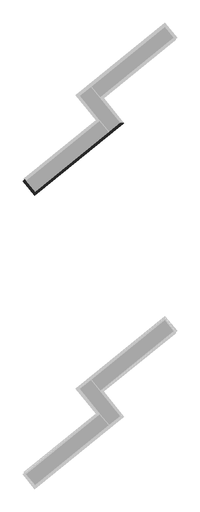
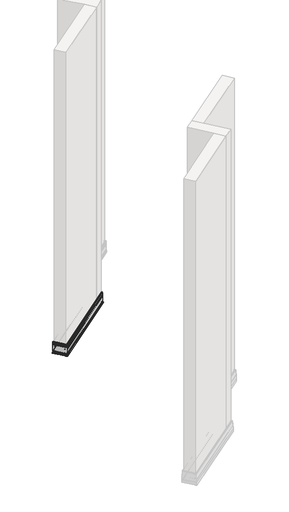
# One storey, part 17 of 21: 1 proxy.
"""IFC4 building model written with IfcOpenShell, lengths in millimetres."""

from ifc_helpers import new_model, si_unit, frame, origin, place, context, project, spatial, polyline, circle_curve, ellipse_curve, element, save
from ifc_brep_helpers import plane_surface, cylinder_surface, revolved_surface, advanced_brep

model = new_model("IFC4")

# Units and contexts
model_context = context("Model", 3, world=origin())
ifc_project = project(units=[si_unit("LENGTHUNIT", "METRE", prefix="MILLI")], contexts=[model_context])

# Site, building, storey
site = spatial("IfcSite", under=ifc_project)
building = spatial("IfcBuilding", under=site)
storey = spatial("IfcBuildingStorey", under=building, Name="Izofleks 2D View", Elevation=0.0)

# Proxy
placement = place(None, origin())
element("IfcBuildingElementProxy", 1, Name="Wall Sweeps", at=placement, inside=storey, context=model_context, shape_type="AdvancedBrep", body=[
    advanced_brep(
    [(10237.4522713, -3345.7787476, 24.6576156), (10237.4522713, -3345.7787476, 28.7655485), (10234.0081119, -3345.4167518, 28.7655485), (10233.7384472, -3345.3884089, 27.7479135), (10235.1018647, -3345.5317099, 27.7479135), (10235.787117, -3345.6037328, 27.1399945), (10233.0387933, -3345.3148723, 18.3), (10235.3488299, -3345.557667, 18.3), (10235.3488299, -3345.557667, 16.99999), (10228.316906, -3344.818582, 16.99999), (10228.316906, -3344.818582, 0.0), (10226.4885138, -3344.6264102, 0.0), (10226.4885138, -3344.6264102, 54.99999), (10228.316906, -3344.818582, 53.99999), (10228.316906, -3344.818582, 47.8868905), (10232.5927689, -3345.2679933, 47.8868905), (10231.6371214, -3345.1675507, 48.3626585), (10230.421833, -3345.0398187, 48.3626585), (10229.7258942, -3344.9666726, 48.9497419), (10232.4134293, -3345.2491439, 59.2434073), (10233.4174589, -3345.3546717, 59.6555585), (10237.4382256, -3345.7772713, 59.6555585), (10237.3663333, -3345.7697151, 78.3223694), (10237.3663333, -3345.7697151, 87.2257869), (10237.4685861, -3345.7804623, 93.4495757), (10236.4948445, -3345.678118, 98.368044), (10235.9160855, -3345.6172879, 99.5828469), (10234.5285034, -3345.4714472, 101.7076691), (10232.8190999, -3345.2917816, 103.1069743), (10231.3185263, -3345.134065, 103.51129), (10231.3185263, -3345.134065, 101.4584585), (10226.3958941, -3344.6166755, 101.4584585), (10226.3958941, -3344.6166755, 102.9584585), (10229.2088268, -3344.9123266, 102.9584585), (10229.2088268, -3344.9123266, 104.9584585), (10231.6701436, -3345.1710215, 104.9964584), (10234.1314621, -3345.4297165, 104.2814568), (10236.3545341, -3345.6633707, 102.4589271), (10237.8870208, -3345.8244416, 100.1178709), (10238.7579789, -3345.915983, 98.199675), (10239.1601241, -3345.9582501, 96.8753527), (10239.5730975, -3346.0016554, 93.606275), (10239.4760312, -3345.9914533, 87.1886584), (10239.560419, -3346.0003228, 78.3276584), (10239.560419, -3346.0003228, 24.6000924), (10240.0034307, -3346.0468852, 19.4344099), (10243.3364636, -3346.3972011, 12.1684838), (10248.6774701, -3346.9585635, 4.8872371), (10247.0771626, -3346.7903644, 2.9584585), (10244.6799567, -3346.5384079, 2.9584585), (10244.6799567, -3346.5384079, 0.4656585), (10242.8374858, -3346.3447564, 0.4656585), (10242.8374858, -3346.3447564, 4.2584585), (10244.3625239, -3346.5050444, 4.2584585), (10245.5965682, -3346.6347477, 5.7382041), (10241.4320609, -3346.1970403, 11.523042), (10237.9252206, -3345.8284565, 19.1754831), (9568.8979128, -3736.7182193, 24.6576156), (9568.6365837, -3736.9298395, 19.1754831), (9566.6988716, -3738.4989678, 11.523042), (9564.3977643, -3740.3623677, 5.7382041), (9565.0796381, -3739.8101972, 4.2584585), (9565.9223011, -3739.1278221, 4.2584585), (9565.9223011, -3739.1278221, 0.4656585), (9564.9042399, -3739.9522318, 0.4656585), (9564.9042399, -3739.9522318, 2.9584585), (9563.5796587, -3741.0248566, 2.9584585), (9562.6954054, -3741.7409108, 4.8872371), (9565.6465899, -3739.3510887, 12.1684838), (9567.4882643, -3737.8597302, 19.4344099), (9567.7330513, -3737.6615056, 24.6000924), (9567.7330513, -3737.6615056, 78.3276584), (9567.77968, -3737.6237464, 87.1886584), (9567.7260458, -3737.6671785, 93.606275), (9567.9542351, -3737.4823945, 96.8753527), (9568.1764413, -3737.3024554, 98.199675), (9568.657691, -3736.9127471, 100.1178709), (9569.5044698, -3736.2270391, 102.4589271), (9570.732833, -3735.2323303, 104.2814568), (9572.0928397, -3734.1310185, 104.9964584), (9573.4528455, -3733.0297075, 104.9584585), (9573.4528455, -3733.0297075, 102.9584585), (9575.0071374, -3731.7710668, 102.9584585), (9575.0071374, -3731.7710668, 101.4584585), (9572.2871266, -3733.9736881, 101.4584585), (9572.2871266, -3733.9736881, 103.51129), (9571.4579814, -3734.6451166, 103.1069743), (9570.513447, -3735.4099856, 101.7076691), (9569.7467355, -3736.0308562, 99.5828469), (9569.426941, -3736.2898207, 98.368044), (9568.888898, -3736.7255193, 93.4495757), (9568.945398, -3736.6797666, 87.2257869), (9568.945398, -3736.6797666, 78.3223694), (9568.9056738, -3736.7119346, 59.6555585), (9571.1273569, -3734.9128511, 59.6555585), (9571.6821356, -3734.4636002, 59.2434073), (9573.1671388, -3733.2610683, 48.9497419), (9572.7825964, -3733.5724646, 48.3626585), (9572.1110862, -3734.1162428, 48.3626585), (9571.5830412, -3734.5438453, 47.8868905), (9573.9456782, -3732.6306195, 47.8868905), (9573.9456782, -3732.6306195, 53.99999), (9574.9559602, -3731.8125092, 54.99999), (9574.9559602, -3731.8125092, 0.0), (9573.9456782, -3732.6306195, 0.0), (9573.9456782, -3732.6306195, 16.99999), (9570.0601738, -3735.7770389, 16.99999), (9570.0601738, -3735.7770389, 18.3), (9571.3365894, -3734.7434179, 18.3), (9569.8179973, -3735.9731496, 27.1399945), (9570.1966349, -3735.6665349, 27.7479135), (9570.9499942, -3735.0564766, 27.7479135), (9570.8009903, -3735.1771375, 28.7655485), (9568.8979128, -3736.7182193, 28.7655485), (9642.4767053, -3827.5804611, 24.6576156), (9642.4767053, -3827.5804611, 28.7655485), (9642.8387011, -3824.1363017, 28.7655485), (9642.867044, -3823.8666369, 27.7479135), (9642.723743, -3825.2300544, 27.7479135), (9642.6517201, -3825.9153068, 27.1399945), (9642.9405806, -3823.166983, 18.3), (9642.6977859, -3825.4770196, 18.3), (9642.6977859, -3825.4770196, 16.99999), (9643.4368709, -3818.4450957, 16.99999), (9643.4368709, -3818.4450957, 0.0), (9643.6290427, -3816.6167035, 0.0), (10148.7739176, -3407.5584493, 0.0), (9643.6290427, -3816.6167035, 54.99999), (9643.4368709, -3818.4450957, 53.99999), (9643.4368709, -3818.4450957, 47.8868905), (9642.9874596, -3822.7209586, 47.8868905), (9643.0879022, -3821.7653111, 48.3626585), (9643.2156342, -3820.5500227, 48.3626585), (9643.2887803, -3819.854084, 48.9497419), (9643.006309, -3822.541619, 59.2434073), (9642.9007812, -3823.5456486, 59.6555585), (9642.4781816, -3827.5664153, 59.6555585), (9642.4857378, -3827.4945231, 78.3223694), (9642.4857378, -3827.4945231, 87.2257869), (9642.4749906, -3827.5967758, 93.4495757), (9642.577335, -3826.6230342, 98.368044), (9642.638165, -3826.0442752, 99.5828469), (9642.7840057, -3824.6566931, 101.7076691), (9642.9636713, -3822.9472897, 103.1069743), (9643.1213879, -3821.4467161, 103.51129), (9643.1213879, -3821.4467161, 101.4584585), (9643.6387774, -3816.5240838, 101.4584585), (9643.6387774, -3816.5240838, 102.9584585), (9643.3431263, -3819.3370165, 102.9584585), (9643.3431263, -3819.3370165, 104.9584585), (9643.0844315, -3821.7983333, 104.9964584), (9642.8257365, -3824.2596518, 104.2814568), (9642.5920822, -3826.4827238, 102.4589271), (9642.4310113, -3828.0152105, 100.1178709), (9642.3394699, -3828.8861686, 98.199675), (9642.2972028, -3829.2883138, 96.8753527), (9642.2537975, -3829.7012873, 93.606275), (9642.2639996, -3829.6042209, 87.1886584), (9642.2551301, -3829.6886087, 78.3276584), (9642.2551301, -3829.6886087, 24.6000924), (9642.2085677, -3830.1316204, 19.4344099), (9641.8582518, -3833.4646534, 12.1684838), (9641.2968894, -3838.8056598, 4.8872371), (9641.4650885, -3837.2053524, 2.9584585), (9641.717045, -3834.8081464, 2.9584585), (9641.717045, -3834.8081464, 0.4656585), (9641.9106965, -3832.9656755, 0.4656585), (9641.9106965, -3832.9656755, 4.2584585), (9641.7504085, -3834.4907136, 4.2584585), (9641.6207052, -3835.7247579, 5.7382041), (9642.0584126, -3831.5602507, 11.523042), (9642.4269964, -3828.0534103, 19.1754831), (9580.6970036, -3738.9021074, 0.0)],
    [
        (0, 1),
        (1, 2),
        (2, 3),
        (3, 4),
        (4, 5, ellipse_curve(frame((10235.1004582, -3345.5315621, 27.2479135), z_axis=(0.10452846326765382, 0.9945218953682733, 0.0), x_axis=(0.9945218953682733, -0.10452846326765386, 0.0)), 0.7071082, 0.500001)),
        (5, 6),
        (6, 7),
        (7, 8, ellipse_curve(frame((10235.1785737, -3345.5397723, 17.649995), z_axis=(0.10452846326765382, 0.9945218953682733, 0.0), x_axis=(0.9945218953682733, -0.10452846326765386, 0.0)), 0.935051, 0.6611809)),
        (8, 9),
        (9, 10),
        (10, 11),
        (11, 12),
        (12, 13, ellipse_curve(frame((10226.8389918, -3344.663247, 53.9789482), z_axis=(0.10452846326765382, 0.9945218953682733, 0.0), x_axis=(0.9945218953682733, -0.10452846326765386, 0.0)), 1.4863528, 1.0510102)),
        (13, 14),
        (14, 15),
        (15, 16),
        (16, 17),
        (17, 18, ellipse_curve(frame((10230.4183879, -3345.0394566, 48.8626585), z_axis=(0.10452846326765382, 0.9945218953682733, 0.0), x_axis=(0.9945218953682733, -0.10452846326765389, 0.0)), 0.7071153, 0.500006)),
        (18, 19),
        (19, 20, ellipse_curve(frame((10233.1631319, -3345.3279409, 59.1444576), z_axis=(0.10452846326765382, 0.9945218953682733, 0.0), x_axis=(0.9945218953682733, -0.10452846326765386, 0.0)), 0.7667105, 0.5421462)),
        (20, 21),
        (21, 22),
        (22, 23),
        (23, 24, ellipse_curve(frame((10122.3145711, -3333.6772876, 91.2936585), z_axis=(-0.10452846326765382, -0.9945218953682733, 0.0), x_axis=(-0.9945218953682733, 0.10452846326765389, 0.0)), 115.8284506, 81.9030829)),
        (24, 25, ellipse_curve(frame((10213.8673896, -3343.2998766, 93.5954863), z_axis=(-0.10452846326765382, -0.9945218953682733, 0.0), x_axis=(-0.9945218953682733, 0.10452846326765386, 0.0)), 23.7320956, 16.7811257)),
        (25, 26, ellipse_curve(frame((10196.1180146, -3341.4343421, 89.3206815), z_axis=(-0.10452846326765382, -0.9945218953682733, 0.0), x_axis=(-0.9945218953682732, 0.10452846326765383, 0.0)), 42.5676821, 30.0998967)),
        (26, 27, ellipse_curve(frame((10213.8673896, -3343.2998766, 93.5954863), z_axis=(-0.10452846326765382, -0.9945218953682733, 0.0), x_axis=(-0.9945218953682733, 0.10452846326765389, 0.0)), 23.7320956, 16.7811257)),
        (27, 28, ellipse_curve(frame((10228.5738163, -3344.8455843, 99.2578162), z_axis=(-0.10452846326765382, -0.9945218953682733, 0.0), x_axis=(-0.9945218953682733, 0.10452846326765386, 0.0)), 6.9176268, 4.8915008)),
        (28, 29, ellipse_curve(frame((10231.2009667, -3345.121709, 101.680883), z_axis=(-0.10452846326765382, -0.9945218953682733, 0.0), x_axis=(-0.9945218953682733, 0.10452846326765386, 0.0)), 2.5912839, 1.8323144)),
        (29, 30),
        (30, 31),
        (31, 32),
        (32, 33),
        (33, 34),
        (34, 35, ellipse_curve(frame((10230.7077412, -3345.0698689, 96.1938046), z_axis=(0.10452846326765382, 0.9945218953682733, 0.0), x_axis=(0.9945218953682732, -0.10452846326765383, 0.0)), 12.4863877, 8.8292094)),
        (35, 36, ellipse_curve(frame((10231.2009668, -3345.121709, 101.680883), z_axis=(0.10452846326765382, 0.9945218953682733, 0.0), x_axis=(0.9945218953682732, -0.10452846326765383, 0.0)), 4.7126043, 3.3323144)),
        (36, 37, ellipse_curve(frame((10228.5738163, -3344.8455843, 99.2578162), z_axis=(0.10452846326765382, 0.9945218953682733, 0.0), x_axis=(0.9945218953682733, -0.10452846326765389, 0.0)), 9.0389471, 6.3915008)),
        (37, 38, ellipse_curve(frame((10213.9387864, -3343.3073807, 93.6169585), z_axis=(0.10452846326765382, 0.9945218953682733, 0.0), x_axis=(0.9945218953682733, -0.10452846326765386, 0.0)), 25.7755165, 18.2260425)),
        (38, 39, ellipse_curve(frame((10215.1485656, -3343.4345336, 93.8395846), z_axis=(0.10452846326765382, 0.9945218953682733, 0.0), x_axis=(0.9945218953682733, -0.10452846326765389, 0.0)), 24.5271842, 17.3433382)),
        (39, 40),
        (40, 41, ellipse_curve(frame((10213.9387864, -3343.3073807, 93.6169585), z_axis=(0.10452846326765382, 0.9945218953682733, 0.0), x_axis=(0.9945218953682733, -0.10452846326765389, 0.0)), 25.7755165, 18.2260425)),
        (41, 42, ellipse_curve(frame((10122.3145711, -3333.6772876, 91.2936584), z_axis=(0.10452846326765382, 0.9945218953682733, 0.0), x_axis=(0.9945218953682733, -0.10452846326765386, 0.0)), 117.9497709, 83.4030829)),
        (42, 43),
        (43, 44),
        (44, 45, ellipse_curve(frame((10276.2597522, -3349.8575782, 23.5987093), z_axis=(-0.10452846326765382, -0.9945218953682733, 0.0), x_axis=(-0.9945218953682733, 0.10452846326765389, 0.0)), 36.9286476, 26.1124971)),
        (45, 46, ellipse_curve(frame((10281.2043647, -3350.3772779, 24.9692502), z_axis=(-0.10452846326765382, -0.9945218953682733, 0.0), x_axis=(-0.9945218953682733, 0.10452846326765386, 0.0)), 42.1608608, 29.8122306)),
        (46, 47, ellipse_curve(frame((10392.5905596, -3362.0844387, 62.8834263), z_axis=(-0.10452846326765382, -0.9945218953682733, 0.0), x_axis=(-0.9945218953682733, 0.10452846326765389, 0.0)), 166.3336568, 117.6156566)),
        (47, 48, ellipse_curve(frame((10247.0771626, -3346.7903644, 4.2584585), z_axis=(0.10452846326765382, 0.9945218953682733, 0.0), x_axis=(0.9945218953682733, -0.10452846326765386, 0.0)), 1.8384776, 1.3)),
        (48, 49),
        (49, 50),
        (50, 51),
        (51, 52),
        (52, 53),
        (53, 54, ellipse_curve(frame((10244.3625239, -3346.5050444, 5.2584585), z_axis=(-0.10452846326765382, -0.9945218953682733, 0.0), x_axis=(-0.9945218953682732, 0.10452846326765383, 0.0)), 1.4142136, 1.0)),
        (54, 55, ellipse_curve(frame((10392.5905596, -3362.0844387, 62.8834263), z_axis=(0.10452846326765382, 0.9945218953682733, 0.0), x_axis=(0.9945218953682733, -0.10452846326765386, 0.0)), 168.4549771, 119.1156566)),
        (55, 56, ellipse_curve(frame((10281.2043647, -3350.3772779, 24.9692502), z_axis=(0.10452846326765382, 0.9945218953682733, 0.0), x_axis=(0.9945218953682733, -0.10452846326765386, 0.0)), 44.2821811, 31.3122306)),
        (56, 0, ellipse_curve(frame((10276.2597522, -3349.8575782, 23.5987093), z_axis=(0.10452846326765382, 0.9945218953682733, 0.0), x_axis=(0.9945218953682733, -0.10452846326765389, 0.0)), 39.0499679, 27.6124971)),
        (57, 58, circle_curve(frame((9547.454757, -3754.0825445, 23.5987093), z_axis=(-0.629320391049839, 0.7771459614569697, 0.0), x_axis=(0.7765743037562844, 0.628857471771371, 0.0383488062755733)), 27.6124971)),
        (58, 59, circle_curve(frame((9544.7226009, -3756.2950009, 24.9692502), z_axis=(-0.629320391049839, 0.7771459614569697, 0.0), x_axis=(0.7636350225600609, 0.6183794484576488, -0.18565669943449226)), 31.3122306)),
        (59, 60, circle_curve(frame((9483.1759231, -3806.1345179, 62.8834263), z_axis=(-0.6293203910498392, 0.7771459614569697, 0.0), x_axis=(0.7011878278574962, 0.5678107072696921, -0.4311921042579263)), 119.1156566)),
        (60, 61, circle_curve(frame((9565.0796381, -3739.8101972, 5.2584585), z_axis=(0.6293203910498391, -0.7771459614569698, 0.0), x_axis=(-0.6818737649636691, -0.5521704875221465, 0.47974568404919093)), 1.0)),
        (61, 62),
        (62, 63),
        (63, 64),
        (64, 65),
        (65, 66),
        (66, 67, circle_curve(frame((9563.5796587, -3741.0248566, 4.2584585), z_axis=(-0.629320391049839, 0.7771459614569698, 0.0), x_axis=(1.8485803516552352e-11, 1.496950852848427e-11, -1.0)), 1.3)),
        (67, 68, circle_curve(frame((9483.1759231, -3806.1345179, 62.8834263), z_axis=(0.6293203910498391, -0.7771459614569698, 0.0), x_axis=(0.6760960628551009, 0.5474917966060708, -0.4930992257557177)), 117.6156566)),
        (68, 69, circle_curve(frame((9544.7226009, -3756.2950009, 24.9692502), z_axis=(0.6293203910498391, -0.7771459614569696, 0.0), x_axis=(0.7018592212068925, 0.5683543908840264, -0.4293796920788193)), 29.8122306)),
        (69, 70, circle_curve(frame((9547.454757, -3754.0825445, 23.5987093), z_axis=(0.629320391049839, -0.7771459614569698, 0.0), x_axis=(0.7671999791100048, 0.6212662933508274, -0.15947534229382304)), 26.1124971)),
        (70, 71),
        (71, 72),
        (72, 73, circle_curve(frame((9632.5174929, -3685.2000992, 91.2936584), z_axis=(-0.6293203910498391, 0.7771459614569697, 0.0), x_axis=(-0.7762040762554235, -0.6285576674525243, -0.04921880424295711)), 83.4030829)),
        (73, 74, circle_curve(frame((9581.8903386, -3726.1971603, 93.6169585), z_axis=(-0.6293203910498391, 0.7771459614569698, 0.0), x_axis=(-0.777145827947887, -0.6293202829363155, -0.0005861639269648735)), 18.2260425)),
        (74, 75),
        (75, 76, circle_curve(frame((9581.2218726, -3726.7384734, 93.8395846), z_axis=(-0.6293203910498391, 0.7771459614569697, 0.0), x_axis=(-0.7635664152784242, -0.6183238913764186, 0.18612333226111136)), 17.3433382)),
        (76, 77, circle_curve(frame((9581.8903386, -3726.1971603, 93.6169585), z_axis=(-0.6293203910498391, 0.7771459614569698, 0.0), x_axis=(-0.7260296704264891, -0.5879272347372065, 0.35668261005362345)), 18.2260425)),
        (77, 78, circle_curve(frame((9573.8037219, -3732.7455734, 99.2578162), z_axis=(-0.629320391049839, 0.7771459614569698, 0.0), x_axis=(-0.6726514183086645, -0.5447023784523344, 0.5008386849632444)), 6.3915008)),
        (78, 79, circle_curve(frame((9572.3520844, -3733.9210863, 101.680883), z_axis=(-0.6293203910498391, 0.7771459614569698, 0.0), x_axis=(-0.4859239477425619, -0.3934934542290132, 0.7804106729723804)), 3.3323144)),
        (79, 80, circle_curve(frame((9572.6246172, -3733.7003936, 96.1938046), z_axis=(-0.629320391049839, 0.7771459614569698, 0.0), x_axis=(-0.06022934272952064, -0.048772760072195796, 0.9969922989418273)), 8.8292094)),
        (80, 81),
        (81, 82),
        (82, 83),
        (83, 84),
        (84, 85),
        (85, 86, circle_curve(frame((9572.3520844, -3733.9210863, 101.680883), z_axis=(0.6293203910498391, -0.7771459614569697, 0.0), x_axis=(-0.03545124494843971, -0.028707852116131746, 0.9989589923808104)), 1.8323144)),
        (86, 87, circle_curve(frame((9573.8037219, -3732.7455734, 99.2578162), z_axis=(0.6293203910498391, -0.7771459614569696, 0.0), x_axis=(-0.48046445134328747, -0.38907244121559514, 0.7859876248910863)), 4.8915008)),
        (87, 88, circle_curve(frame((9581.9297891, -3726.1652139, 93.5954863), z_axis=(0.6293203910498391, -0.7771459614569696, 0.0), x_axis=(-0.6803084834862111, -0.5509029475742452, 0.4834111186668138)), 16.7811257)),
        (88, 89, circle_curve(frame((9591.7372439, -3718.2232937, 89.3206815), z_axis=(0.629320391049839, -0.7771459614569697, 0.0), x_axis=(-0.7305841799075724, -0.591615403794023, 0.340936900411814)), 30.0998967)),
        (89, 90, circle_curve(frame((9581.9297891, -3726.1652139, 93.5954863), z_axis=(0.6293203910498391, -0.7771459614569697, 0.0), x_axis=(-0.7450541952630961, -0.6033329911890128, 0.28440033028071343)), 16.7811257)),
        (90, 91, circle_curve(frame((9632.5174929, -3685.2000992, 91.2936585), z_axis=(0.629320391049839, -0.7771459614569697, 0.0), x_axis=(-0.7768766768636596, -0.629102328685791, 0.02632278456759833)), 81.9030829)),
        (91, 92),
        (92, 93),
        (93, 94),
        (94, 95, circle_curve(frame((9571.2678859, -3734.799053, 59.1444576), z_axis=(-0.629320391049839, 0.7771459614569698, 0.0), x_axis=(-0.7771459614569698, -0.629320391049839, 0.0)), 0.5421462)),
        (95, 96),
        (96, 97, circle_curve(frame((9572.7845, -3733.5709231, 48.8626585), z_axis=(-0.6293203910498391, 0.7771459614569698, 0.0), x_axis=(0.7652684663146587, 0.6197021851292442, 0.17416479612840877)), 0.500006)),
        (97, 98),
        (98, 99),
        (99, 100),
        (100, 101),
        (101, 102, circle_curve(frame((9574.7623028, -3731.9693299, 53.9789482), z_axis=(-0.6293203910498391, 0.7771459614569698, 0.0), x_axis=(-0.776990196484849, -0.6291942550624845, 0.02002058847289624)), 1.0510102)),
        (102, 103),
        (103, 104),
        (104, 105),
        (105, 106),
        (106, 107, circle_curve(frame((9570.1542492, -3735.7008582, 17.649995), z_axis=(-0.629320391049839, 0.7771459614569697, 0.0), x_axis=(-0.14228387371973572, -0.11521920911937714, -0.9830970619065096)), 0.6611809)),
        (107, 108),
        (108, 109),
        (109, 110, circle_curve(frame((9570.1974121, -3735.6659056, 27.2479135), z_axis=(-0.6293203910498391, 0.7771459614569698, 0.0), x_axis=(-0.758977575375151, -0.6146079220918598, -0.21496544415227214)), 0.500001)),
        (110, 111),
        (111, 112),
        (112, 113),
        (113, 57),
        (0, 114),
        (114, 115),
        (115, 1),
        (115, 116),
        (116, 2),
        (116, 117),
        (117, 3),
        (117, 118),
        (118, 4),
        (118, 119, ellipse_curve(frame((9642.7238909, -3825.228648, 27.2479135), z_axis=(0.9945218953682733, -0.10452846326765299, 0.0), x_axis=(0.10452846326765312, 0.9945218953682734, 0.0)), 0.7071082, 0.500001)),
        (119, 5),
        (119, 120),
        (120, 6),
        (120, 121),
        (121, 7),
        (121, 122, ellipse_curve(frame((9642.7156806, -3825.3067635, 17.649995), z_axis=(0.9945218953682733, -0.10452846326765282, 0.0), x_axis=(0.10452846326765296, 0.9945218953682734, 0.0)), 0.935051, 0.6611809)),
        (122, 8),
        (122, 123),
        (123, 9),
        (123, 124),
        (124, 10),
        (124, 125),
        (125, 126),
        (126, 11),
        (125, 127),
        (127, 12),
        (127, 128, ellipse_curve(frame((9643.592206, -3816.9671816, 53.9789482), z_axis=(0.9945218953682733, -0.1045284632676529, 0.0), x_axis=(0.10452846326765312, 0.9945218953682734, 0.0)), 1.4863528, 1.0510102)),
        (128, 13),
        (128, 129),
        (129, 14),
        (129, 130),
        (130, 15),
        (130, 131),
        (131, 16),
        (131, 132),
        (132, 17),
        (132, 133, ellipse_curve(frame((9643.2159963, -3820.5465776, 48.8626585), z_axis=(0.9945218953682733, -0.10452846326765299, 0.0), x_axis=(0.10452846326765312, 0.9945218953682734, 0.0)), 0.7071153, 0.500006)),
        (133, 18),
        (133, 134),
        (134, 19),
        (134, 135, ellipse_curve(frame((9642.9275121, -3823.2913216, 59.1444576), z_axis=(0.9945218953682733, -0.10452846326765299, 0.0), x_axis=(0.10452846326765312, 0.9945218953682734, 0.0)), 0.7667105, 0.5421462)),
        (135, 20),
        (135, 136),
        (136, 21),
        (136, 137),
        (137, 22),
        (137, 138),
        (138, 23),
        (138, 139, ellipse_curve(frame((9654.5781653, -3712.4427608, 91.2936585), z_axis=(-0.9945218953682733, 0.1045284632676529, 0.0), x_axis=(-0.10452846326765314, -0.9945218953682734, 0.0)), 115.8284506, 81.9030829)),
        (139, 24),
        (139, 140, ellipse_curve(frame((9644.9555763, -3803.9955793, 93.5954863), z_axis=(-0.9945218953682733, 0.1045284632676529, 0.0), x_axis=(-0.10452846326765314, -0.9945218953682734, 0.0)), 23.7320956, 16.7811257)),
        (140, 25),
        (140, 141, ellipse_curve(frame((9646.8211108, -3786.2462043, 89.3206815), z_axis=(-0.9945218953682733, 0.1045284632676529, 0.0), x_axis=(-0.10452846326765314, -0.9945218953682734, 0.0)), 42.5676821, 30.0998967)),
        (141, 26),
        (141, 142, ellipse_curve(frame((9644.9555763, -3803.9955793, 93.5954863), z_axis=(-0.9945218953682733, 0.10452846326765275, 0.0), x_axis=(-0.10452846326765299, -0.9945218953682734, 0.0)), 23.7320956, 16.7811257)),
        (142, 27),
        (142, 143, ellipse_curve(frame((9643.4098686, -3818.702006, 99.2578162), z_axis=(-0.9945218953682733, 0.10452846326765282, 0.0), x_axis=(-0.10452846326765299, -0.9945218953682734, 0.0)), 6.9176268, 4.8915008)),
        (143, 28),
        (143, 144, ellipse_curve(frame((9643.1337439, -3821.3291564, 101.680883), z_axis=(-0.9945218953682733, 0.10452846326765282, 0.0), x_axis=(-0.10452846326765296, -0.9945218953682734, 0.0)), 2.5912839, 1.8323144)),
        (144, 29),
        (144, 145),
        (145, 30),
        (145, 146),
        (146, 31),
        (146, 147),
        (147, 32),
        (147, 148),
        (148, 33),
        (148, 149),
        (149, 34),
        (149, 150, ellipse_curve(frame((9643.185584, -3820.8359309, 96.1938046), z_axis=(0.9945218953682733, -0.10452846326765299, 0.0), x_axis=(0.10452846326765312, 0.9945218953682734, 0.0)), 12.4863877, 8.8292094)),
        (150, 35),
        (150, 151, ellipse_curve(frame((9643.1337439, -3821.3291565, 101.680883), z_axis=(0.9945218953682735, -0.10452846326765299, 0.0), x_axis=(0.10452846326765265, 0.9945218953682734, 0.0)), 4.7126043, 3.3323144)),
        (151, 36),
        (151, 152, ellipse_curve(frame((9643.4098686, -3818.702006, 99.2578162), z_axis=(0.9945218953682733, -0.10452846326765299, 0.0), x_axis=(0.10452846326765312, 0.9945218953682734, 0.0)), 9.0389471, 6.3915008)),
        (152, 37),
        (152, 153, ellipse_curve(frame((9644.9480722, -3804.0669762, 93.6169585), z_axis=(0.9945218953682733, -0.10452846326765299, 0.0), x_axis=(0.10452846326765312, 0.9945218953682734, 0.0)), 25.7755165, 18.2260425)),
        (153, 38),
        (153, 154, ellipse_curve(frame((9644.8209193, -3805.2767553, 93.8395846), z_axis=(0.9945218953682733, -0.1045284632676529, 0.0), x_axis=(0.10452846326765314, 0.9945218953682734, 0.0)), 24.5271842, 17.3433382)),
        (154, 39),
        (154, 155),
        (155, 40),
        (155, 156, ellipse_curve(frame((9644.9480722, -3804.0669762, 93.6169585), z_axis=(0.9945218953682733, -0.10452846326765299, 0.0), x_axis=(0.10452846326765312, 0.9945218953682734, 0.0)), 25.7755165, 18.2260425)),
        (156, 41),
        (156, 157, ellipse_curve(frame((9654.5781653, -3712.4427608, 91.2936584), z_axis=(0.9945218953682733, -0.10452846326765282, 0.0), x_axis=(0.10452846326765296, 0.9945218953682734, 0.0)), 117.9497709, 83.4030829)),
        (157, 42),
        (157, 158),
        (158, 43),
        (158, 159),
        (159, 44),
        (159, 160, ellipse_curve(frame((9638.3978747, -3866.3879419, 23.5987093), z_axis=(-0.9945218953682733, 0.10452846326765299, 0.0), x_axis=(-0.10452846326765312, -0.9945218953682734, 0.0)), 36.9286476, 26.1124971)),
        (160, 45),
        (160, 161, ellipse_curve(frame((9637.878175, -3871.3325544, 24.9692502), z_axis=(-0.9945218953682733, 0.1045284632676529, 0.0), x_axis=(-0.10452846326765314, -0.9945218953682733, 0.0)), 42.1608608, 29.8122306)),
        (161, 46),
        (161, 162, ellipse_curve(frame((9626.1710142, -3982.7187493, 62.8834263), z_axis=(-0.9945218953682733, 0.10452846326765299, 0.0), x_axis=(-0.10452846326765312, -0.9945218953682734, 0.0)), 166.3336568, 117.6156566)),
        (162, 47),
        (162, 163, ellipse_curve(frame((9641.4650885, -3837.2053524, 4.2584585), z_axis=(0.9945218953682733, -0.10452846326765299, 0.0), x_axis=(0.10452846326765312, 0.9945218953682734, 0.0)), 1.8384776, 1.3)),
        (163, 48),
        (163, 164),
        (164, 49),
        (164, 165),
        (165, 50),
        (165, 166),
        (166, 51),
        (166, 167),
        (167, 52),
        (167, 168),
        (168, 53),
        (168, 169, ellipse_curve(frame((9641.7504085, -3834.4907136, 5.2584585), z_axis=(-0.9945218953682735, 0.10452846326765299, 0.0), x_axis=(-0.10452846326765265, -0.9945218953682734, 0.0)), 1.4142136, 1.0)),
        (169, 54),
        (169, 170, ellipse_curve(frame((9626.1710142, -3982.7187493, 62.8834263), z_axis=(0.9945218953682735, -0.10452846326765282, 0.0), x_axis=(0.10452846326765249, 0.9945218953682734, 0.0)), 168.4549771, 119.1156566)),
        (170, 55),
        (170, 171, ellipse_curve(frame((9637.878175, -3871.3325544, 24.9692502), z_axis=(0.9945218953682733, -0.1045284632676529, 0.0), x_axis=(0.10452846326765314, 0.9945218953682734, 0.0)), 44.2821811, 31.3122306)),
        (171, 56),
        (171, 114, ellipse_curve(frame((9638.3978747, -3866.3879419, 23.5987093), z_axis=(0.9945218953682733, -0.1045284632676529, 0.0), x_axis=(0.10452846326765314, 0.9945218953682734, 0.0)), 39.0499679, 27.6124971)),
        (114, 57),
        (113, 115),
        (112, 116),
        (111, 117),
        (110, 118),
        (109, 119),
        (108, 120),
        (107, 121),
        (106, 122),
        (105, 123),
        (104, 124),
        (103, 172),
        (172, 125),
        (102, 127),
        (101, 128),
        (100, 129),
        (99, 130),
        (98, 131),
        (97, 132),
        (96, 133),
        (95, 134),
        (94, 135),
        (93, 136),
        (92, 137),
        (91, 138),
        (90, 139),
        (89, 140),
        (88, 141),
        (87, 142),
        (86, 143),
        (85, 144),
        (84, 145),
        (83, 146),
        (82, 147),
        (81, 148),
        (80, 149),
        (79, 150),
        (78, 151),
        (77, 152),
        (76, 153),
        (75, 154),
        (74, 155),
        (73, 156),
        (72, 157),
        (71, 158),
        (70, 159),
        (69, 160),
        (68, 161),
        (67, 162),
        (66, 163),
        (65, 164),
        (64, 165),
        (63, 166),
        (62, 167),
        (61, 168),
        (60, 169),
        (59, 170),
        (58, 171),
    ],
    [
        plane_surface(frame((10226.4885138, -3344.6264102, 304.8), z_axis=(0.10452846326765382, 0.9945218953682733, 0.0), x_axis=(-0.9945218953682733, 0.10452846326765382, 0.0))),
        plane_surface(frame((10118.9581332, -3291.2882355, 0.0), z_axis=(-0.6293203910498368, 0.7771459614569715, 0.0), x_axis=(0.7771459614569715, 0.6293203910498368, 0.0))),
        plane_surface(frame((10237.4522713, -3345.7787476, 24.6576156), z_axis=(-0.6293203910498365, 0.7771459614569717, 0.0), x_axis=(-0.7771459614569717, -0.6293203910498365, 0.0))),
        plane_surface(frame((10237.4522713, -3345.7787476, 28.7655485), z_axis=(0.0, 0.0, -1.0), x_axis=(-0.7771459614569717, -0.6293203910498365, 0.0))),
        plane_surface(frame((10234.0081119, -3345.4167518, 28.7655485), z_axis=(0.6184393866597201, -0.763709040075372, -0.18515190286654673), x_axis=(-0.7771459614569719, -0.6293203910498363, 0.0))),
        plane_surface(frame((10233.7384472, -3345.3884089, 27.7479135), z_axis=(0.0, 0.0, 1.0), x_axis=(-0.7771459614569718, -0.6293203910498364, 0.0))),
        cylinder_surface(frame((10230.3419101, -3349.3849584, 27.2479135), z_axis=(0.7771459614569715, 0.6293203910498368, 0.0), x_axis=(0.6146079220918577, -0.7589775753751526, -0.21496544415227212)), 0.500001),
        plane_surface(frame((10235.787117, -3345.6037328, 27.1399945), z_axis=(0.6144868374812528, -0.758828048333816, -0.21583771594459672), x_axis=(-0.7771459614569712, -0.6293203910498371, 0.0))),
        plane_surface(frame((10233.0387933, -3345.3148723, 18.3), z_axis=(0.0, 0.0, 0.9999999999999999), x_axis=(-0.7771459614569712, -0.629320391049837, 0.0))),
        cylinder_surface(frame((10230.3768627, -3349.4281213, 17.649995), z_axis=(0.7771459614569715, 0.629320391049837, 0.0), x_axis=(0.11521920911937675, -0.14228387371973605, -0.9830970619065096)), 0.6611809),
        plane_surface(frame((10235.3488299, -3345.557667, 16.99999), z_axis=(0.0, 0.0, -1.0), x_axis=(-0.7771459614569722, -0.6293203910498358, 0.0))),
        plane_surface(frame((10228.316906, -3344.818582, 16.99999), z_axis=(0.6293203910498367, -0.7771459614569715, 0.0), x_axis=(-0.7771459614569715, -0.6293203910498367, 0.0))),
        plane_surface(frame((10228.316906, -3344.818582, 0.0), z_axis=(0.0, 0.0, -1.0), x_axis=(-0.7771459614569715, -0.6293203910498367, 0.0))),
        plane_surface(frame((10226.4885138, -3344.6264102, 0.0), z_axis=(-0.6293203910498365, 0.7771459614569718, 0.0), x_axis=(-0.7771459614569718, -0.6293203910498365, 0.0))),
        cylinder_surface(frame((10226.6453344, -3344.8200676, 53.9789482), z_axis=(0.7771459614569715, 0.629320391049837, 0.0), x_axis=(0.6291942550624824, -0.7769901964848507, 0.02002058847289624)), 1.0510102),
        plane_surface(frame((10228.316906, -3344.818582, 53.99999), z_axis=(0.6293203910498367, -0.7771459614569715, 0.0), x_axis=(-0.7771459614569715, -0.6293203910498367, 0.0))),
        plane_surface(frame((10228.316906, -3344.818582, 47.8868905), z_axis=(0.0, 0.0, 1.0), x_axis=(-0.7771459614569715, -0.6293203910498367, 0.0))),
        plane_surface(frame((10232.5927689, -3345.2679933, 47.8868905), z_axis=(-0.36096334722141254, 0.4457526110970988, -0.8191520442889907), x_axis=(-0.7771459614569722, -0.6293203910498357, 0.0))),
        plane_surface(frame((10231.6371214, -3345.1675507, 48.3626585), z_axis=(0.0, 0.0, -1.0000000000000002), x_axis=(-0.7771459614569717, -0.6293203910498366, 0.0))),
        cylinder_surface(frame((10228.2469276, -3346.7978705, 48.8626585), z_axis=(0.7771459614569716, 0.629320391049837, 0.0), x_axis=(-0.6197021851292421, 0.7652684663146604, 0.17416479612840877)), 0.500006),
        plane_surface(frame((10229.7258942, -3344.9666726, 48.9497419), z_axis=(-0.618749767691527, 0.764092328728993, 0.18251476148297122), x_axis=(-0.777145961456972, -0.6293203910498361, 0.0))),
        cylinder_surface(frame((10229.4750575, -3348.3144846, 59.1444576), z_axis=(0.7771459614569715, 0.6293203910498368, 0.0), x_axis=(0.6293203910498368, -0.7771459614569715, 0.0)), 0.5421462),
        plane_surface(frame((10233.4174589, -3345.3546717, 59.6555585), z_axis=(0.0, 0.0, 1.0), x_axis=(-0.7771459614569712, -0.6293203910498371, 0.0))),
        plane_surface(frame((10237.4382256, -3345.7772713, 59.6555585), z_axis=(-0.629318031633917, 0.7771430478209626, -0.002738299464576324), x_axis=(-0.7771459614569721, -0.6293203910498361, 0.0))),
        plane_surface(frame((10237.3663333, -3345.7697151, 78.3223694), z_axis=(-0.629320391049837, 0.7771459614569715, 0.0), x_axis=(-0.7771459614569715, -0.629320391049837, 0.0))),
        revolved_surface(polyline([(9642.452935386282, -3827.614635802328, 93.44957570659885), (10237.490641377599, -3345.762602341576, 93.44957570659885)]), (10179.8761037, -3287.0648776, 91.2936585), (-0.7771459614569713, -0.6293203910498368, 0.0)),
        revolved_surface(polyline([(9642.038798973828, -3827.0591320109, 98.36804399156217), (10237.03338045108, -3345.2420200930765, 98.36804399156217)]), (10220.8412185, -3337.6525813, 93.5954863), (-0.7771459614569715, -0.6293203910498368, 0.0)),
        revolved_surface(polyline([(9641.23666019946, -3827.179191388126, 99.58284698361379), (10237.317590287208, -3344.482371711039, 99.58284698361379)]), (10212.8992982, -3327.8451266, 89.3206815), (-0.7771459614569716, -0.6293203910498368, 0.0)),
        revolved_surface(polyline([(9641.158963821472, -3825.9726260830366, 101.70766904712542), (10236.153545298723, -3344.155514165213, 101.70766904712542)]), (10220.8412185, -3337.6525813, 93.5954863), (-0.7771459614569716, -0.6293203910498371, 0.0)),
        revolved_surface(polyline([(9641.511606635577, -3824.1305194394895, 103.10247529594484), (10234.278374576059, -3344.117455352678, 103.10247529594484)]), (10227.421578, -3345.7786485, 99.2578162), (-0.7771459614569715, -0.6293203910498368, 0.0)),
        revolved_surface(polyline([(9641.76237002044, -3822.5472271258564, 103.51128994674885), (10232.67754428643, -3344.033554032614, 103.51128994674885)]), (10228.5970909, -3347.2302861, 101.680883), (-0.7771459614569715, -0.629320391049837, 0.0)),
        plane_surface(frame((10231.3185263, -3345.134065, 103.51129), z_axis=(0.6293203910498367, -0.7771459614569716, 0.0), x_axis=(-0.7771459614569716, -0.6293203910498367, 0.0))),
        plane_surface(frame((10231.3185263, -3345.134065, 101.4584585), z_axis=(0.0, 0.0, -1.0), x_axis=(-0.7771459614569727, -0.6293203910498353, 0.0))),
        plane_surface(frame((10226.3958941, -3344.6166755, 101.4584585), z_axis=(-0.6293203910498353, 0.7771459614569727, 0.0), x_axis=(-0.7771459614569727, -0.6293203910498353, 0.0))),
        plane_surface(frame((10226.3958941, -3344.6166755, 102.9584585), z_axis=(0.0, 0.0, 1.0), x_axis=(-0.7771459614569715, -0.6293203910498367, 0.0))),
        plane_surface(frame((10229.2088268, -3344.9123266, 102.9584585), z_axis=(-0.629320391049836, 0.7771459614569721, 0.0), x_axis=(-0.7771459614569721, -0.629320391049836, 0.0))),
        cylinder_surface(frame((10228.3763982, -3346.9577533, 96.1938046), z_axis=(0.7771459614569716, 0.6293203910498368, 0.0), x_axis=(0.04877276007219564, -0.06022934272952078, 0.9969922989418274)), 8.8292094),
        cylinder_surface(frame((10228.5970909, -3347.2302861, 101.680883), z_axis=(0.7771459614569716, 0.6293203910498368, 0.0), x_axis=(0.39349345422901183, -0.485923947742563, 0.7804106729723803)), 3.3323144),
        cylinder_surface(frame((10227.421578, -3345.7786485, 99.2578162), z_axis=(0.7771459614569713, 0.6293203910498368, 0.0), x_axis=(0.5447023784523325, -0.672651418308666, 0.5008386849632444)), 6.3915008),
        cylinder_surface(frame((10220.8731649, -3337.6920318, 93.6169585), z_axis=(0.7771459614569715, 0.6293203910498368, 0.0), x_axis=(0.5879272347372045, -0.7260296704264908, 0.35668261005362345)), 18.2260425),
        cylinder_surface(frame((10221.414478, -3338.3604978, 93.8395846), z_axis=(0.7771459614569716, 0.629320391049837, 0.0), x_axis=(0.6183238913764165, -0.763566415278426, 0.18612333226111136)), 17.3433382),
        plane_surface(frame((10238.7579789, -3345.915983, 98.199675), z_axis=(0.6151463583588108, -0.7596424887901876, 0.21104086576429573), x_axis=(-0.777145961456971, -0.6293203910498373, 0.0))),
        cylinder_surface(frame((10220.8731649, -3337.6920318, 93.6169585), z_axis=(0.7771459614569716, 0.629320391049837, 0.0), x_axis=(0.6293202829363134, -0.7771458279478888, -0.0005861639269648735)), 18.2260425),
        cylinder_surface(frame((10179.8761037, -3287.0648776, 91.2936584), z_axis=(0.7771459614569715, 0.629320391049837, 0.0), x_axis=(0.6285576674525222, -0.7762040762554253, -0.04921880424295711)), 83.4030829),
        plane_surface(frame((10239.4760312, -3345.9914533, 87.1886584), z_axis=(0.629305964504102, -0.7771281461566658, 0.006771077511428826), x_axis=(-0.7771459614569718, -0.6293203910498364, 0.0))),
        plane_surface(frame((10239.560419, -3346.0003228, 78.3276584), z_axis=(0.6293203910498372, -0.7771459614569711, 0.0), x_axis=(-0.7771459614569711, -0.6293203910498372, 0.0))),
        revolved_surface(polyline([(9601.881838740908, -3862.7875616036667, 19.434409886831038), (10280.330159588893, -3313.390944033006, 19.434409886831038)]), (10248.758549, -3372.1276134, 23.5987093), (-0.7771459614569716, -0.629320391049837, 0.0)),
        revolved_surface(polyline([(9597.765808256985, -3869.170010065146, 12.168483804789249), (10287.428907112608, -3310.6918443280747, 12.168483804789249)]), (10250.9710054, -3374.8597695, 24.9692502), (-0.7771459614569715, -0.6293203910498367, 0.0)),
        revolved_surface(polyline([(9470.372874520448, -3977.2171980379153, 4.887237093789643), (10419.601485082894, -3208.5470253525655, 4.887237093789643)]), (10300.8105225, -3436.4064474, 62.8834263), (-0.7771459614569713, -0.6293203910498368, 0.0)),
        cylinder_surface(frame((10235.7008611, -3356.0027117, 4.2584585), z_axis=(0.7771459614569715, 0.6293203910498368, 0.0), x_axis=(-1.4969508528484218e-11, 1.8485803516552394e-11, -1.0)), 1.3),
        plane_surface(frame((10247.0771626, -3346.7903644, 2.9584585), z_axis=(0.0, 0.0, -1.0), x_axis=(-0.7771459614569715, -0.6293203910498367, 0.0))),
        plane_surface(frame((10244.6799567, -3346.5384079, 2.9584585), z_axis=(0.6293203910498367, -0.7771459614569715, 0.0), x_axis=(-0.7771459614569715, -0.6293203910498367, 0.0))),
        plane_surface(frame((10244.6799567, -3346.5384079, 0.4656585), z_axis=(0.0, 0.0, -1.0), x_axis=(-0.7771459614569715, -0.6293203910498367, 0.0))),
        plane_surface(frame((10242.8374858, -3346.3447564, 0.4656585), z_axis=(-0.6293203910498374, 0.777145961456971, 0.0), x_axis=(-0.777145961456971, -0.6293203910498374, 0.0))),
        plane_surface(frame((10242.8374858, -3346.3447564, 4.2584585), z_axis=(0.0, 0.0, 1.0000000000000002), x_axis=(-0.777145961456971, -0.6293203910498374, 0.0))),
        revolved_surface(polyline([(9641.525433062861, -3835.801907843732, 5.738204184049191), (10245.691840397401, -3346.5575977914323, 5.738204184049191)]), (10234.4862018, -3354.5027324, 5.2584585), (-0.7771459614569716, -0.6293203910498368, 0.0)),
        cylinder_surface(frame((10300.8105225, -3436.4064474, 62.8834263), z_axis=(0.7771459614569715, 0.629320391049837, 0.0), x_axis=(-0.5678107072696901, 0.7011878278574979, -0.4311921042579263)), 119.1156566),
        cylinder_surface(frame((10250.9710054, -3374.8597695, 24.9692502), z_axis=(0.7771459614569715, 0.6293203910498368, 0.0), x_axis=(-0.6183794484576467, 0.7636350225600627, -0.18565669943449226)), 31.3122306),
        cylinder_surface(frame((10248.758549, -3372.1276134, 23.5987093), z_axis=(0.7771459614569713, 0.6293203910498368, 0.0), x_axis=(-0.6288574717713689, 0.7765743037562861, 0.0383488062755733)), 27.6124971),
        plane_surface(frame((9642.4767053, -3827.5804611, 24.6576156), z_axis=(0.7771459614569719, 0.6293203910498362, 0.0), x_axis=(-0.6293203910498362, 0.7771459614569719, 0.0))),
        plane_surface(frame((9642.4767053, -3827.5804611, 28.7655485), z_axis=(0.0, 0.0, -1.0), x_axis=(-0.6293203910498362, 0.7771459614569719, 0.0))),
        plane_surface(frame((9642.8387011, -3824.1363017, 28.7655485), z_axis=(-0.7637090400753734, -0.6184393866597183, -0.18515190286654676), x_axis=(-0.6293203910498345, 0.7771459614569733, 0.0))),
        plane_surface(frame((9642.867044, -3823.8666369, 27.7479135), z_axis=(0.0, 0.0, 1.0), x_axis=(-0.6293203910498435, 0.777145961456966, 0.0))),
        cylinder_surface(frame((9638.8704946, -3820.4700998, 27.2479135), z_axis=(0.6293203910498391, -0.7771459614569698, 0.0), x_axis=(-0.758977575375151, -0.6146079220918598, -0.21496544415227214)), 0.500001),
        plane_surface(frame((9642.6517201, -3825.9153068, 27.1399945), z_axis=(-0.7588280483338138, -0.6144868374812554, -0.21583771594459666), x_axis=(-0.6293203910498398, 0.7771459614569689, 0.0))),
        plane_surface(frame((9642.9405806, -3823.166983, 18.3), z_axis=(0.0, 0.0, 1.0), x_axis=(-0.6293203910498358, 0.7771459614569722, 0.0))),
        cylinder_surface(frame((9638.8273317, -3820.5050524, 17.649995), z_axis=(0.629320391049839, -0.7771459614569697, 0.0), x_axis=(-0.14228387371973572, -0.11521920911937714, -0.9830970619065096)), 0.6611809),
        plane_surface(frame((9642.6977859, -3825.4770196, 16.99999), z_axis=(0.0, 0.0, -1.0000000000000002), x_axis=(-0.6293203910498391, 0.7771459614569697, 0.0))),
        plane_surface(frame((9643.4368709, -3818.4450957, 16.99999), z_axis=(-0.77714596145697, -0.6293203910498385, 0.0), x_axis=(-0.6293203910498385, 0.77714596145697, 0.0))),
        plane_surface(frame((9643.4368709, -3818.4450957, 0.0), z_axis=(0.0, 0.0, -1.0), x_axis=(-0.6293203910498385, 0.77714596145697, 0.0))),
        plane_surface(frame((9643.6290427, -3816.6167035, 0.0), z_axis=(0.7771459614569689, 0.6293203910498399, 0.0), x_axis=(-0.6293203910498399, 0.7771459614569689, 0.0))),
        cylinder_surface(frame((9643.4353853, -3816.7735242, 53.9789482), z_axis=(0.6293203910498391, -0.7771459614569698, 0.0), x_axis=(-0.776990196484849, -0.6291942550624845, 0.02002058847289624)), 1.0510102),
        plane_surface(frame((9643.4368709, -3818.4450957, 53.99999), z_axis=(-0.77714596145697, -0.6293203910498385, 0.0), x_axis=(-0.6293203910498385, 0.77714596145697, 0.0))),
        plane_surface(frame((9643.4368709, -3818.4450957, 47.8868905), z_axis=(0.0, 0.0, 1.0000000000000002), x_axis=(-0.6293203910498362, 0.777145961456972, 0.0))),
        plane_surface(frame((9642.9874596, -3822.7209586, 47.8868905), z_axis=(0.44575261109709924, 0.36096334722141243, -0.8191520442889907), x_axis=(-0.6293203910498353, 0.7771459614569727, 0.0))),
        plane_surface(frame((9643.0879022, -3821.7653111, 48.3626585), z_axis=(0.0, 0.0, -1.0), x_axis=(-0.6293203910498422, 0.7771459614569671, 0.0))),
        cylinder_surface(frame((9641.4575824, -3818.3751173, 48.8626585), z_axis=(0.6293203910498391, -0.7771459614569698, 0.0), x_axis=(0.7652684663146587, 0.6197021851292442, 0.17416479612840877)), 0.500006),
        plane_surface(frame((9643.2887803, -3819.854084, 48.9497419), z_axis=(0.7640923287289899, 0.6187497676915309, 0.1825147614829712), x_axis=(-0.62932039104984, 0.7771459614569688, 0.0))),
        cylinder_surface(frame((9639.9409683, -3819.6032472, 59.1444576), z_axis=(0.629320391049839, -0.7771459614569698, 0.0), x_axis=(-0.7771459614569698, -0.629320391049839, 0.0)), 0.5421462),
        plane_surface(frame((9642.9007812, -3823.5456486, 59.6555585), z_axis=(0.0, 0.0, 1.0), x_axis=(-0.6293203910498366, 0.7771459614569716, 0.0))),
        plane_surface(frame((9642.4781816, -3827.5664153, 59.6555585), z_axis=(0.7771430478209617, 0.6293180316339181, -0.002738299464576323), x_axis=(-0.6293203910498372, 0.7771459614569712, 0.0))),
        plane_surface(frame((9642.4857378, -3827.4945231, 78.3223694), z_axis=(0.7771459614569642, 0.6293203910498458, 0.0), x_axis=(-0.6293203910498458, 0.7771459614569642, 0.0))),
        revolved_surface(polyline([(9539.406290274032, -3700.317530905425, 93.44957570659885), (9642.492850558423, -3827.6188310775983, 93.44957570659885)]), (9701.1905753, -3770.0042934, 91.2936585), (-0.629320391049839, 0.7771459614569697, 0.0)),
        revolved_surface(polyline([(9569.426941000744, -3736.28982066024, 98.36804399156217), (9643.013432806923, -3827.16157015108, 98.36804399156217)]), (9650.6028716, -3810.9694082, 93.5954863), (-0.6293203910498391, 0.7771459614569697, 0.0)),
        revolved_surface(polyline([(9569.746735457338, -3736.0308562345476, 99.58284698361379), (9643.773081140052, -3827.445780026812, 99.58284698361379)]), (9660.4103263, -3803.027488, 89.3206815), (-0.629320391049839, 0.7771459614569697, 0.0)),
        revolved_surface(polyline([(9570.513446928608, -3735.409985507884, 101.70766904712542), (9644.099938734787, -3826.281734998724, 101.70766904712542)]), (9650.6028716, -3810.9694082, 93.5954863), (-0.6293203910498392, 0.7771459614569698, 0.0)),
        revolved_surface(polyline([(9571.453529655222, -3734.648721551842, 103.10247529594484), (9644.137997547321, -3824.406564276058, 103.10247529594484)]), (9642.4768044, -3817.5497677, 99.2578162), (-0.6293203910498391, 0.7771459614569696, 0.0)),
        revolved_surface(polyline([(9572.2871265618, -3733.973688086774, 103.51128994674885), (9644.221898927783, -3822.8057339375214, 103.51128994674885)]), (9641.0251669, -3818.7252806, 101.680883), (-0.6293203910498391, 0.7771459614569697, 0.0)),
        plane_surface(frame((9643.1213879, -3821.4467161, 103.51129), z_axis=(-0.7771459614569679, -0.6293203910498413, 0.0), x_axis=(-0.6293203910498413, 0.7771459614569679, 0.0))),
        plane_surface(frame((9643.1213879, -3821.4467161, 101.4584585), z_axis=(0.0, 0.0, -1.0), x_axis=(-0.6293203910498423, 0.777145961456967, 0.0))),
        plane_surface(frame((9643.6387774, -3816.5240838, 101.4584585), z_axis=(0.7771459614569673, 0.6293203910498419, 0.0), x_axis=(-0.6293203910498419, 0.7771459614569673, 0.0))),
        plane_surface(frame((9643.6387774, -3816.5240838, 102.9584585), z_axis=(0.0, 0.0, 1.0000000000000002), x_axis=(-0.6293203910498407, 0.7771459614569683, 0.0))),
        plane_surface(frame((9643.3431263, -3819.3370165, 102.9584585), z_axis=(0.7771459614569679, 0.6293203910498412, 0.0), x_axis=(-0.6293203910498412, 0.7771459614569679, 0.0))),
        cylinder_surface(frame((9641.2976997, -3818.5045879, 96.1938046), z_axis=(0.629320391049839, -0.7771459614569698, 0.0), x_axis=(-0.06022934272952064, -0.048772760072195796, 0.9969922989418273)), 8.8292094),
        cylinder_surface(frame((9641.0251668, -3818.7252806, 101.680883), z_axis=(0.6293203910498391, -0.7771459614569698, 0.0), x_axis=(-0.4859239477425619, -0.3934934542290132, 0.7804106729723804)), 3.3323144),
        cylinder_surface(frame((9642.4768044, -3817.5497677, 99.2578162), z_axis=(0.629320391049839, -0.7771459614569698, 0.0), x_axis=(-0.6726514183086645, -0.5447023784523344, 0.5008386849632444)), 6.3915008),
        cylinder_surface(frame((9650.5634211, -3811.0013546, 93.6169585), z_axis=(0.629320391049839, -0.7771459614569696, 0.0), x_axis=(-0.7260296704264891, -0.5879272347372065, 0.35668261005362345)), 18.2260425),
        cylinder_surface(frame((9649.8949551, -3811.5426677, 93.8395846), z_axis=(0.6293203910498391, -0.7771459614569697, 0.0), x_axis=(-0.7635664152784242, -0.6183238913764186, 0.18612333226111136)), 17.3433382),
        plane_surface(frame((9642.3394699, -3828.8861686, 98.199675), z_axis=(-0.7596424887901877, -0.6151463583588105, 0.21104086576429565), x_axis=(-0.6293203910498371, 0.7771459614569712, 0.0))),
        cylinder_surface(frame((9650.5634211, -3811.0013546, 93.6169585), z_axis=(0.6293203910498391, -0.7771459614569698, 0.0), x_axis=(-0.777145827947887, -0.6293202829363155, -0.0005861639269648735)), 18.2260425),
        cylinder_surface(frame((9701.1905753, -3770.0042934, 91.2936584), z_axis=(0.6293203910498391, -0.7771459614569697, 0.0), x_axis=(-0.7762040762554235, -0.6285576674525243, -0.04921880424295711)), 83.4030829),
        plane_surface(frame((9642.2639996, -3829.6042209, 87.1886584), z_axis=(-0.7771281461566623, -0.6293059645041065, 0.006771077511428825), x_axis=(-0.6293203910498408, 0.7771459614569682, 0.0))),
        plane_surface(frame((9642.2551301, -3829.6886087, 78.3276584), z_axis=(-0.7771459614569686, -0.6293203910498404, 0.0), x_axis=(-0.6293203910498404, 0.7771459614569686, 0.0))),
        revolved_surface(polyline([(9567.488264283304, -3737.859730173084, 19.434409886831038), (9674.864508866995, -3870.4583492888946, 19.434409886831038)]), (9616.1278395, -3838.8867387, 23.5987093), (-0.629320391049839, 0.7771459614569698, 0.0)),
        revolved_surface(polyline([(9565.64658990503, -3739.3510886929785, 12.168483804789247), (9677.563608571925, -3877.5570968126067, 12.168483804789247)]), (9613.3956834, -3841.0991951, 24.9692502), (-0.6293203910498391, 0.7771459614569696, 0.0)),
        revolved_surface(polyline([(9562.695405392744, -3741.740910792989, 4.887237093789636), (9779.708427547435, -4009.729674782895, 4.887237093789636)]), (9551.8490055, -3890.9387122, 62.8834263), (-0.6293203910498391, 0.7771459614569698, 0.0)),
        cylinder_surface(frame((9632.2527412, -3825.8290508, 4.2584585), z_axis=(0.629320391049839, -0.7771459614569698, 0.0), x_axis=(1.8485803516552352e-11, 1.496950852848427e-11, -1.0)), 1.3),
        plane_surface(frame((9641.4650885, -3837.2053524, 2.9584585), z_axis=(0.0, 0.0, -1.0), x_axis=(-0.6293203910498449, 0.7771459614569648, 0.0))),
        plane_surface(frame((9641.717045, -3834.8081464, 2.9584585), z_axis=(-0.7771459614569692, -0.6293203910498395, 0.0), x_axis=(-0.6293203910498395, 0.7771459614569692, 0.0))),
        plane_surface(frame((9641.717045, -3834.8081464, 0.4656585), z_axis=(0.0, 0.0, -1.0), x_axis=(-0.6293203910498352, 0.7771459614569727, 0.0))),
        plane_surface(frame((9641.9106965, -3832.9656755, 0.4656585), z_axis=(0.7771459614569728, 0.6293203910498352, 0.0), x_axis=(-0.6293203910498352, 0.7771459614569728, 0.0))),
        plane_surface(frame((9641.9106965, -3832.9656755, 4.2584585), z_axis=(0.0, 0.0, 1.0000000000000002), x_axis=(-0.6293203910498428, 0.7771459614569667, 0.0))),
        revolved_surface(polyline([(9564.397764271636, -3740.36236772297, 5.738204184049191), (9641.69785510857, -3835.820030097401, 5.738204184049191)]), (9633.7527205, -3824.6143915, 5.2584585), (-0.6293203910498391, 0.7771459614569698, 0.0)),
        cylinder_surface(frame((9551.8490055, -3890.9387122, 62.8834263), z_axis=(0.6293203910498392, -0.7771459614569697, 0.0), x_axis=(0.7011878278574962, 0.5678107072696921, -0.4311921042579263)), 119.1156566),
        cylinder_surface(frame((9613.3956834, -3841.0991951, 24.9692502), z_axis=(0.629320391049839, -0.7771459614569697, 0.0), x_axis=(0.7636350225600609, 0.6183794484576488, -0.18565669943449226)), 31.3122306),
        cylinder_surface(frame((9616.1278395, -3838.8867387, 23.5987093), z_axis=(0.629320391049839, -0.7771459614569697, 0.0), x_axis=(0.7765743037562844, 0.628857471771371, 0.0383488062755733)), 27.6124971),
    ],
    [
        (0, [[1, 2, 3, 4, 5, 6, 7, 8, 9, 10, 11, 12, 13, 14, 15, 16, 17, 18, 19, 20, 21, 22, 23, 24, 25, 26, 27, 28, 29, 30, 31, 32, 33, 34, 35, 36, 37, 38, 39, 40, 41, 42, 43, 44, 45, 46, 47, 48, 49, 50, 51, 52, 53, 54, 55, 56, 57]]),
        (1, [[58, 59, 60, 61, 62, 63, 64, 65, 66, 67, 68, 69, 70, 71, 72, 73, 74, 75, 76, 77, 78, 79, 80, 81, 82, 83, 84, 85, 86, 87, 88, 89, 90, 91, 92, 93, 94, 95, 96, 97, 98, 99, 100, 101, 102, 103, 104, 105, 106, 107, 108, 109, 110, 111, 112, 113, 114]]),
        (2, [[-1, 115, 116, 117]]),
        (3, [[-2, -117, 118, 119]]),
        (4, [[-3, -119, 120, 121]]),
        (5, [[-4, -121, 122, 123]]),
        (6, [[-5, -123, 124, 125]]),
        (7, [[-6, -125, 126, 127]]),
        (8, [[-7, -127, 128, 129]]),
        (9, [[-8, -129, 130, 131]]),
        (10, [[-9, -131, 132, 133]]),
        (11, [[-10, -133, 134, 135]]),
        (12, [[-11, -135, 136, 137, 138]]),
        (13, [[-12, -138, -137, 139, 140]]),
        (14, [[-13, -140, 141, 142]]),
        (15, [[-14, -142, 143, 144]]),
        (16, [[-15, -144, 145, 146]]),
        (17, [[-16, -146, 147, 148]]),
        (18, [[-17, -148, 149, 150]]),
        (19, [[-18, -150, 151, 152]]),
        (20, [[-19, -152, 153, 154]]),
        (21, [[-20, -154, 155, 156]]),
        (22, [[-21, -156, 157, 158]]),
        (23, [[-22, -158, 159, 160]]),
        (24, [[-23, -160, 161, 162]]),
        (25, [[-24, -162, 163, 164]]),
        (26, [[-25, -164, 165, 166]]),
        (27, [[-26, -166, 167, 168]]),
        (28, [[-27, -168, 169, 170]]),
        (29, [[-28, -170, 171, 172]]),
        (30, [[-29, -172, 173, 174]]),
        (31, [[-30, -174, 175, 176]]),
        (32, [[-31, -176, 177, 178]]),
        (33, [[-32, -178, 179, 180]]),
        (34, [[-33, -180, 181, 182]]),
        (35, [[-34, -182, 183, 184]]),
        (36, [[-35, -184, 185, 186]]),
        (37, [[-36, -186, 187, 188]]),
        (38, [[-37, -188, 189, 190]]),
        (39, [[-38, -190, 191, 192]]),
        (40, [[-39, -192, 193, 194]]),
        (41, [[-40, -194, 195, 196]]),
        (42, [[-41, -196, 197, 198]]),
        (43, [[-42, -198, 199, 200]]),
        (44, [[-43, -200, 201, 202]]),
        (45, [[-44, -202, 203, 204]]),
        (46, [[-45, -204, 205, 206]]),
        (47, [[-46, -206, 207, 208]]),
        (48, [[-47, -208, 209, 210]]),
        (49, [[-48, -210, 211, 212]]),
        (50, [[-49, -212, 213, 214]]),
        (51, [[-50, -214, 215, 216]]),
        (52, [[-51, -216, 217, 218]]),
        (53, [[-52, -218, 219, 220]]),
        (54, [[-53, -220, 221, 222]]),
        (55, [[-54, -222, 223, 224]]),
        (56, [[-55, -224, 225, 226]]),
        (57, [[-56, -226, 227, 228]]),
        (58, [[-57, -228, 229, -115]]),
        (59, [[-116, 230, -114, 231]]),
        (60, [[-118, -231, -113, 232]]),
        (61, [[-120, -232, -112, 233]]),
        (62, [[-122, -233, -111, 234]]),
        (63, [[-124, -234, -110, 235]]),
        (64, [[-126, -235, -109, 236]]),
        (65, [[-128, -236, -108, 237]]),
        (66, [[-130, -237, -107, 238]]),
        (67, [[-132, -238, -106, 239]]),
        (68, [[-134, -239, -105, 240]]),
        (69, [[-136, -240, -104, 241, 242]]),
        (70, [[-139, -242, -241, -103, 243]]),
        (71, [[-141, -243, -102, 244]]),
        (72, [[-143, -244, -101, 245]]),
        (73, [[-145, -245, -100, 246]]),
        (74, [[-147, -246, -99, 247]]),
        (75, [[-149, -247, -98, 248]]),
        (76, [[-151, -248, -97, 249]]),
        (77, [[-153, -249, -96, 250]]),
        (78, [[-155, -250, -95, 251]]),
        (79, [[-157, -251, -94, 252]]),
        (80, [[-159, -252, -93, 253]]),
        (81, [[-161, -253, -92, 254]]),
        (82, [[-163, -254, -91, 255]]),
        (83, [[-165, -255, -90, 256]]),
        (84, [[-167, -256, -89, 257]]),
        (85, [[-169, -257, -88, 258]]),
        (86, [[-171, -258, -87, 259]]),
        (87, [[-173, -259, -86, 260]]),
        (88, [[-175, -260, -85, 261]]),
        (89, [[-177, -261, -84, 262]]),
        (90, [[-179, -262, -83, 263]]),
        (91, [[-181, -263, -82, 264]]),
        (92, [[-183, -264, -81, 265]]),
        (93, [[-185, -265, -80, 266]]),
        (94, [[-187, -266, -79, 267]]),
        (95, [[-189, -267, -78, 268]]),
        (96, [[-191, -268, -77, 269]]),
        (97, [[-193, -269, -76, 270]]),
        (98, [[-195, -270, -75, 271]]),
        (99, [[-197, -271, -74, 272]]),
        (100, [[-199, -272, -73, 273]]),
        (101, [[-201, -273, -72, 274]]),
        (102, [[-203, -274, -71, 275]]),
        (103, [[-205, -275, -70, 276]]),
        (104, [[-207, -276, -69, 277]]),
        (105, [[-209, -277, -68, 278]]),
        (106, [[-211, -278, -67, 279]]),
        (107, [[-213, -279, -66, 280]]),
        (108, [[-215, -280, -65, 281]]),
        (109, [[-217, -281, -64, 282]]),
        (110, [[-219, -282, -63, 283]]),
        (111, [[-221, -283, -62, 284]]),
        (112, [[-223, -284, -61, 285]]),
        (113, [[-225, -285, -60, 286]]),
        (114, [[-227, -286, -59, 287]]),
        (115, [[-229, -287, -58, -230]]),
    ],
),
])

save(model, "model.ifc")
